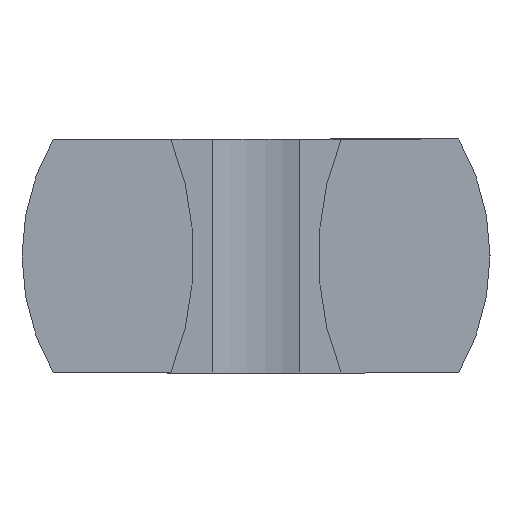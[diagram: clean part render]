
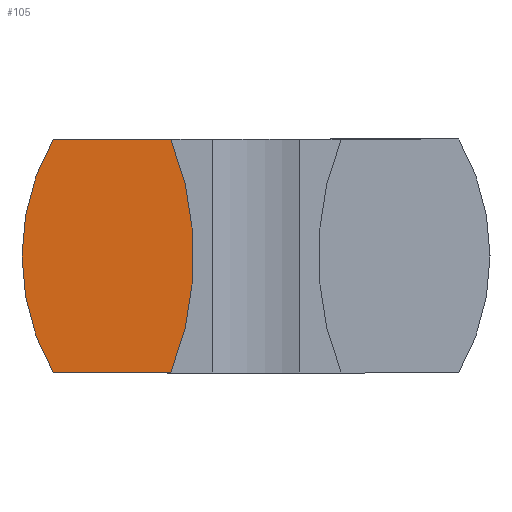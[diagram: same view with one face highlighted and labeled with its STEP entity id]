
A CAD part, front view. The second image highlights one B-rep face of the part: STEP entity #105.
In plain terms, the highlighted planar face has unit normal (0, -1, 0).
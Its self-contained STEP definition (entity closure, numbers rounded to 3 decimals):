
#76=PLANE('',#609);
#105=ADVANCED_FACE('',(#145),#76,.T.);
#145=FACE_OUTER_BOUND('',#185,.T.);
#185=EDGE_LOOP('',(#302,#303,#304,#305));
#227=CIRCLE('',#606,20.);
#228=CIRCLE('',#608,15.);
#302=ORIENTED_EDGE('',*,*,#465,.T.);
#303=ORIENTED_EDGE('',*,*,#466,.F.);
#304=ORIENTED_EDGE('',*,*,#467,.F.);
#305=ORIENTED_EDGE('',*,*,#468,.F.);
#406=VERTEX_POINT('',#894);
#407=VERTEX_POINT('',#896);
#408=VERTEX_POINT('',#900);
#409=VERTEX_POINT('',#902);
#465=EDGE_CURVE('',#406,#407,#227,.T.);
#466=EDGE_CURVE('',#408,#407,#512,.T.);
#467=EDGE_CURVE('',#409,#408,#228,.T.);
#468=EDGE_CURVE('',#406,#409,#513,.T.);
#512=LINE('',#899,#548);
#513=LINE('',#903,#549);
#548=VECTOR('',#739,1.);
#549=VECTOR('',#742,1.);
#606=AXIS2_PLACEMENT_3D('',#897,#735,#736);
#608=AXIS2_PLACEMENT_3D('',#901,#740,#741);
#609=AXIS2_PLACEMENT_3D('',#904,#743,#744);
#735=DIRECTION('',(0.,-1.,0.));
#736=DIRECTION('',(0.927,0.,-0.375));
#739=DIRECTION('',(1.,0.,0.));
#740=DIRECTION('',(0.,1.,0.));
#741=DIRECTION('',(-0.866,0.,-0.5));
#742=DIRECTION('',(-1.,0.,0.));
#743=DIRECTION('',(0.,-1.,0.));
#744=DIRECTION('',(-1.,0.,0.));
#894=CARTESIAN_POINT('',(-5.46,-52.,-7.5));
#896=CARTESIAN_POINT('',(-5.46,-52.,7.5));
#897=CARTESIAN_POINT('',(-24.,-52.,0.));
#899=CARTESIAN_POINT('',(-12.99,-52.,7.5));
#900=CARTESIAN_POINT('',(-12.99,-52.,7.5));
#901=CARTESIAN_POINT('',(0.,-52.,0.));
#902=CARTESIAN_POINT('',(-12.99,-52.,-7.5));
#903=CARTESIAN_POINT('',(-5.46,-52.,-7.5));
#904=CARTESIAN_POINT('',(16.5,-52.,8.25));
